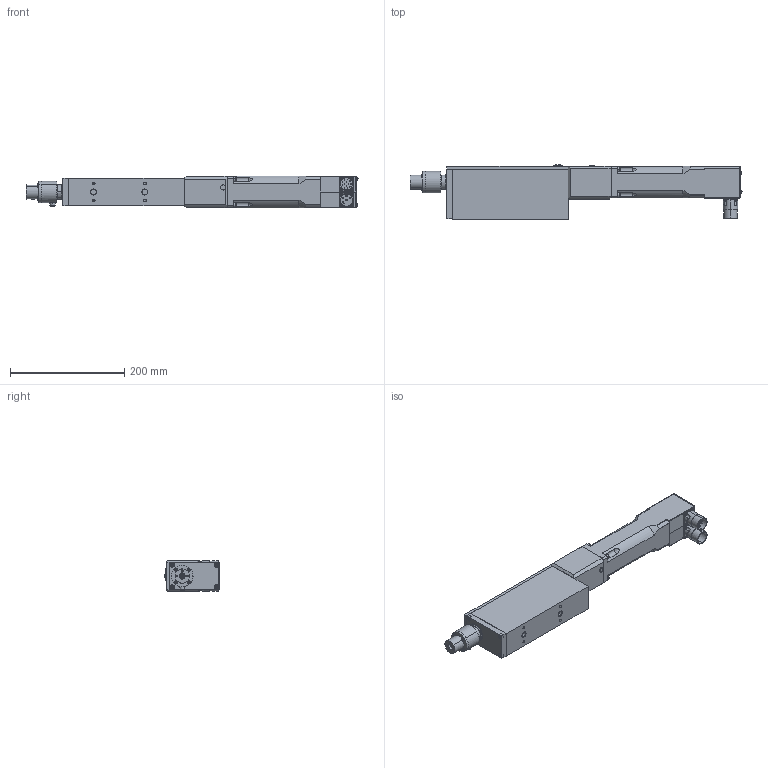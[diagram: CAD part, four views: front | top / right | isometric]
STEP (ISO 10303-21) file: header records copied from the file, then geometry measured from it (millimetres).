
FILE_DESCRIPTION (( 'STEP AP203' ), '1' );
FILE_NAME ('PR5ID005-010-040H.STEP', '2021-02-04T13:06:59', ( '' ), ( '' ), 'SwSTEP 2.0', 'SolidWorks 2016', '' );
FILE_SCHEMA (( 'CONFIG_CONTROL_DESIGN' ));
Length unit declared in the file: millimetre
Products named in the file (1): PR5ID005-010-040H
Bounding box: 582.09 x 95.58 x 55 mm (x, y, z)
Volume: 1600223 mm3; surface area: 283589.7 mm2
Topology: 29 solids, 41 shells, 2112 faces, 4932 edges, 2920 vertices
Faces by surface type: plane 971, cylinder 583, cone 418, bspline 87, torus 40, sphere 13
Entity records: 62648 total; most frequent: CARTESIAN_POINT 15520, DIRECTION 9980, ORIENTED_EDGE 9520, EDGE_CURVE 4760, AXIS2_PLACEMENT_3D 3840, VERTEX_POINT 2907, EDGE_LOOP 2409, VECTOR 2300
